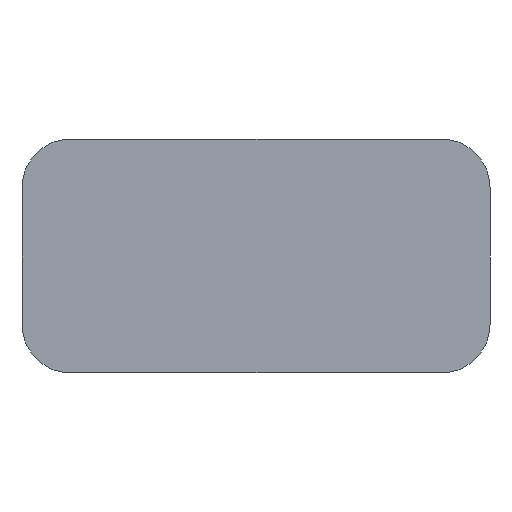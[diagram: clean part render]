
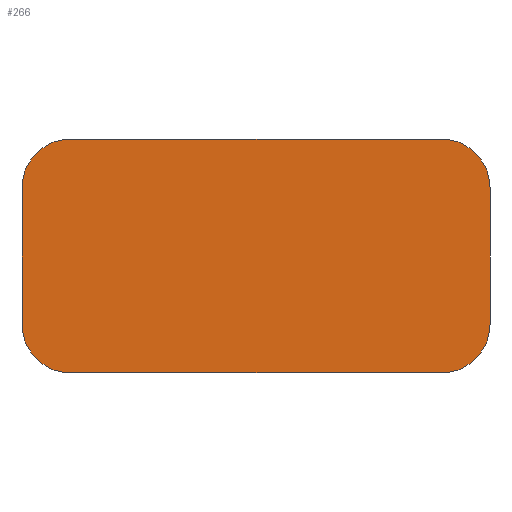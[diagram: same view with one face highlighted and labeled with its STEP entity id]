
A CAD part, front view. The second image highlights one B-rep face of the part: STEP entity #266.
In plain terms, the highlighted planar face has unit normal (0, -1, 0).
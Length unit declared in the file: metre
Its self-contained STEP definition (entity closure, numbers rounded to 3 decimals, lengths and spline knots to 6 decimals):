
#14=LINE('',#432,#30);
#19=LINE('',#446,#35);
#23=LINE('',#458,#39);
#27=LINE('',#470,#43);
#30=VECTOR('',#353,1.);
#35=VECTOR('',#366,1.);
#39=VECTOR('',#378,1.);
#43=VECTOR('',#390,1.);
#52=PLANE('',#313);
#100=ORIENTED_EDGE('',*,*,#128,.T.);
#101=ORIENTED_EDGE('',*,*,#132,.T.);
#102=ORIENTED_EDGE('',*,*,#135,.T.);
#103=ORIENTED_EDGE('',*,*,#138,.T.);
#104=ORIENTED_EDGE('',*,*,#141,.F.);
#105=ORIENTED_EDGE('',*,*,#144,.T.);
#106=ORIENTED_EDGE('',*,*,#147,.T.);
#107=ORIENTED_EDGE('',*,*,#149,.T.);
#128=EDGE_CURVE('',#161,#160,#14,.T.);
#132=EDGE_CURVE('',#160,#163,#183,.F.);
#135=EDGE_CURVE('',#163,#165,#19,.T.);
#138=EDGE_CURVE('',#165,#167,#185,.F.);
#141=EDGE_CURVE('',#169,#167,#23,.T.);
#144=EDGE_CURVE('',#169,#171,#187,.F.);
#147=EDGE_CURVE('',#171,#173,#27,.T.);
#149=EDGE_CURVE('',#173,#161,#189,.F.);
#160=VERTEX_POINT('',#431);
#161=VERTEX_POINT('',#433);
#163=VERTEX_POINT('',#439);
#165=VERTEX_POINT('',#445);
#167=VERTEX_POINT('',#451);
#169=VERTEX_POINT('',#457);
#171=VERTEX_POINT('',#463);
#173=VERTEX_POINT('',#469);
#183=CIRCLE('',#300,0.005);
#185=CIRCLE('',#304,0.005);
#187=CIRCLE('',#308,0.005);
#189=CIRCLE('',#312,0.005);
#212=EDGE_LOOP('',(#100,#101,#102,#103,#104,#105,#106,#107));
#238=FACE_BOUND('',#212,.T.);
#266=ADVANCED_FACE('',(#238),#52,.T.);
#300=AXIS2_PLACEMENT_3D('',#440,#360,#361);
#304=AXIS2_PLACEMENT_3D('',#452,#372,#373);
#308=AXIS2_PLACEMENT_3D('',#464,#384,#385);
#312=AXIS2_PLACEMENT_3D('',#473,#395,#396);
#313=AXIS2_PLACEMENT_3D('',#474,#397,#398);
#353=DIRECTION('',(-1.,0.,0.));
#360=DIRECTION('',(0.,1.,0.));
#361=DIRECTION('',(0.,0.,1.));
#366=DIRECTION('',(0.,0.,-1.));
#372=DIRECTION('',(0.,1.,0.));
#373=DIRECTION('',(0.,0.,1.));
#378=DIRECTION('',(-1.,0.,0.));
#384=DIRECTION('',(0.,1.,0.));
#385=DIRECTION('',(0.,0.,1.));
#390=DIRECTION('',(0.,0.,1.));
#395=DIRECTION('',(0.,1.,0.));
#396=DIRECTION('',(0.,0.,1.));
#397=DIRECTION('',(0.,-1.,0.));
#398=DIRECTION('',(1.,0.,0.));
#431=CARTESIAN_POINT('',(-0.001292,-0.016033,0.018863));
#432=CARTESIAN_POINT('',(0.017708,-0.016033,0.018863));
#433=CARTESIAN_POINT('',(0.036708,-0.016033,0.018863));
#439=CARTESIAN_POINT('',(-0.006292,-0.016033,0.013863));
#440=CARTESIAN_POINT('',(-0.001292,-0.016033,0.013863));
#445=CARTESIAN_POINT('',(-0.006292,-0.016033,-0.000137));
#446=CARTESIAN_POINT('',(-0.006292,-0.016033,0.006863));
#451=CARTESIAN_POINT('',(-0.001292,-0.016033,-0.005137));
#452=CARTESIAN_POINT('',(-0.001292,-0.016033,-0.000137));
#457=CARTESIAN_POINT('',(0.036708,-0.016033,-0.005137));
#458=CARTESIAN_POINT('',(0.017708,-0.016033,-0.005137));
#463=CARTESIAN_POINT('',(0.041708,-0.016033,-0.000137));
#464=CARTESIAN_POINT('',(0.036708,-0.016033,-0.000137));
#469=CARTESIAN_POINT('',(0.041708,-0.016033,0.013863));
#470=CARTESIAN_POINT('',(0.041708,-0.016033,0.006863));
#473=CARTESIAN_POINT('',(0.036708,-0.016033,0.013863));
#474=CARTESIAN_POINT('',(0.017708,-0.016033,0.006863));
